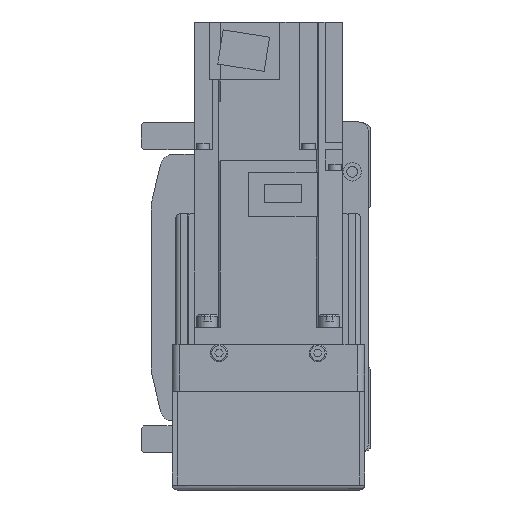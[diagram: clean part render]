
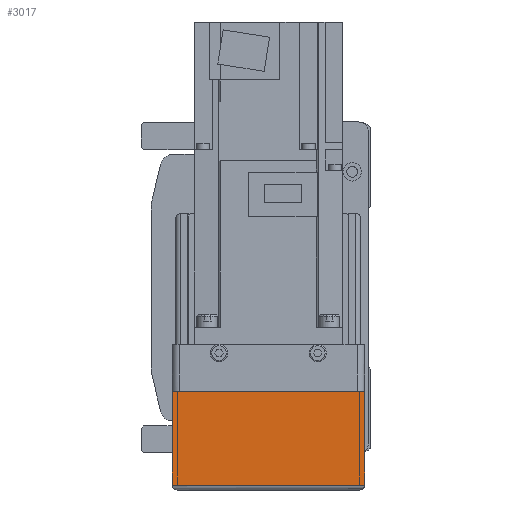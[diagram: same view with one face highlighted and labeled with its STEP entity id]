
A CAD part, left-side view. The second image highlights one B-rep face of the part: STEP entity #3017.
In plain terms, the highlighted planar face has unit normal (-1, 0, 0).
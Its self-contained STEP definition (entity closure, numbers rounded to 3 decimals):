
#3017 = ADVANCED_FACE( '', ( #6219 ), #6220, .F. );
#6219 = FACE_OUTER_BOUND( '', #9413, .T. );
#6220 = PLANE( '', #9414 );
#9413 = EDGE_LOOP( '', ( #17854, #17855, #17856, #17857 ) );
#9414 = AXIS2_PLACEMENT_3D( '', #17858, #17859, #17860 );
#17854 = ORIENTED_EDGE( '', *, *, #19862, .F. );
#17855 = ORIENTED_EDGE( '', *, *, #20862, .F. );
#17856 = ORIENTED_EDGE( '', *, *, #21377, .T. );
#17857 = ORIENTED_EDGE( '', *, *, #21406, .F. );
#17858 = CARTESIAN_POINT( '', ( -158., 36., 7. ) );
#17859 = DIRECTION( '', ( 1., 0., 0. ) );
#17860 = DIRECTION( '', ( 0., 0., -1. ) );
#19862 = EDGE_CURVE( '', #24380, #24051, #24382, .T. );
#20862 = EDGE_CURVE( '', #25027, #24380, #25789, .T. );
#21377 = EDGE_CURVE( '', #25027, #26386, #26404, .T. );
#21406 = EDGE_CURVE( '', #24051, #26386, #26438, .T. );
#24051 = VERTEX_POINT( '', #30137 );
#24380 = VERTEX_POINT( '', #30665 );
#24382 = LINE( '', #30668, #30669 );
#25027 = VERTEX_POINT( '', #31625 );
#25789 = LINE( '', #32764, #32765 );
#26386 = VERTEX_POINT( '', #33629 );
#26404 = LINE( '', #33654, #33655 );
#26438 = LINE( '', #33699, #33700 );
#30137 = CARTESIAN_POINT( '', ( -158., -39., -12.1 ) );
#30665 = CARTESIAN_POINT( '', ( -158., 39., -12.1 ) );
#30668 = CARTESIAN_POINT( '', ( -158., 50., -12.1 ) );
#30669 = VECTOR( '', #36095, 1000. );
#31625 = CARTESIAN_POINT( '', ( -158., 39., -50. ) );
#32764 = CARTESIAN_POINT( '', ( -158., 39., -50. ) );
#32765 = VECTOR( '', #37246, 1000. );
#33629 = CARTESIAN_POINT( '', ( -158., -39., -50. ) );
#33654 = CARTESIAN_POINT( '', ( -158., 40., -50. ) );
#33655 = VECTOR( '', #37713, 1000. );
#33699 = CARTESIAN_POINT( '', ( -158., -39., -12.1 ) );
#33700 = VECTOR( '', #37736, 1000. );
#36095 = DIRECTION( '', ( 0., -1., 0. ) );
#37246 = DIRECTION( '', ( 0., 0., 1. ) );
#37713 = DIRECTION( '', ( 0., -1., 0. ) );
#37736 = DIRECTION( '', ( 0., 0., -1. ) );
